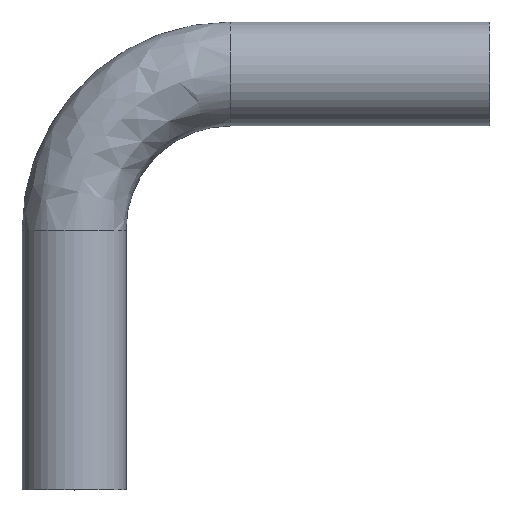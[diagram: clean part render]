
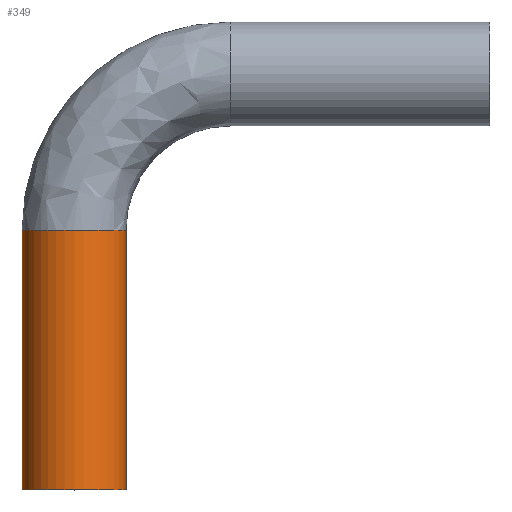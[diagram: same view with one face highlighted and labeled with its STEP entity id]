
A CAD part, top view. The second image highlights one B-rep face of the part: STEP entity #349.
In plain terms, the highlighted cylindrical face has radius 9.525 mm (diameter 19.05 mm), a partial arc.
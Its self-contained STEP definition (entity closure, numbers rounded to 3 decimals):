
#3 = CIRCLE ( 'NONE', #75, 9.525 ) ;
#9 = ORIENTED_EDGE ( 'NONE', *, *, #402, .T. ) ;
#12 = DIRECTION ( 'NONE',  ( 1., 0., 0. ) ) ;
#18 = DIRECTION ( 'NONE',  ( 0., -1., 0. ) ) ;
#28 = CARTESIAN_POINT ( 'NONE',  ( 0., 47.6, 0. ) ) ;
#29 = CARTESIAN_POINT ( 'NONE',  ( 9.525, 47.6, 0. ) ) ;
#43 = VERTEX_POINT ( 'NONE', #356 ) ;
#46 = DIRECTION ( 'NONE',  ( 0., -1., 0. ) ) ;
#56 = CARTESIAN_POINT ( 'NONE',  ( -9.525, 47.6, 0. ) ) ;
#74 = CARTESIAN_POINT ( 'NONE',  ( 9.525, 47.6, 0. ) ) ;
#75 = AXIS2_PLACEMENT_3D ( 'NONE', #248, #319, #239 ) ;
#124 = EDGE_LOOP ( 'NONE', ( #463, #9, #355, #189 ) ) ;
#156 = DIRECTION ( 'NONE',  ( 1., 0., 0. ) ) ;
#168 = CIRCLE ( 'NONE', #227, 9.525 ) ;
#183 = AXIS2_PLACEMENT_3D ( 'NONE', #205, #196, #156 ) ;
#187 = DIRECTION ( 'NONE',  ( 0., -1., 0. ) ) ;
#189 = ORIENTED_EDGE ( 'NONE', *, *, #288, .F. ) ;
#196 = DIRECTION ( 'NONE',  ( 0., -1., 0. ) ) ;
#197 = VECTOR ( 'NONE', #46, 1000. ) ;
#205 = CARTESIAN_POINT ( 'NONE',  ( 0., 47.6, 0. ) ) ;
#215 = LINE ( 'NONE', #252, #197 ) ;
#227 = AXIS2_PLACEMENT_3D ( 'NONE', #28, #18, #12 ) ;
#234 = VERTEX_POINT ( 'NONE', #29 ) ;
#239 = DIRECTION ( 'NONE',  ( 1., 0., 0. ) ) ;
#248 = CARTESIAN_POINT ( 'NONE',  ( 0., 0., 0. ) ) ;
#252 = CARTESIAN_POINT ( 'NONE',  ( -9.525, 47.6, 0. ) ) ;
#288 = EDGE_CURVE ( 'NONE', #234, #461, #296, .T. ) ;
#296 = LINE ( 'NONE', #74, #395 ) ;
#319 = DIRECTION ( 'NONE',  ( 0., 1., 0. ) ) ;
#320 = VERTEX_POINT ( 'NONE', #56 ) ;
#349 = ADVANCED_FACE ( 'NONE', ( #430 ), #364, .T. ) ;
#355 = ORIENTED_EDGE ( 'NONE', *, *, #378, .T. ) ;
#356 = CARTESIAN_POINT ( 'NONE',  ( -9.525, 0., 0. ) ) ;
#364 = CYLINDRICAL_SURFACE ( 'NONE', #183, 9.525 ) ;
#378 = EDGE_CURVE ( 'NONE', #43, #461, #3, .T. ) ;
#395 = VECTOR ( 'NONE', #187, 1000. ) ;
#402 = EDGE_CURVE ( 'NONE', #320, #43, #215, .T. ) ;
#417 = CARTESIAN_POINT ( 'NONE',  ( 9.525, 0., 0. ) ) ;
#429 = EDGE_CURVE ( 'NONE', #234, #320, #168, .T. ) ;
#430 = FACE_OUTER_BOUND ( 'NONE', #124, .T. ) ;
#461 = VERTEX_POINT ( 'NONE', #417 ) ;
#463 = ORIENTED_EDGE ( 'NONE', *, *, #429, .T. ) ;
